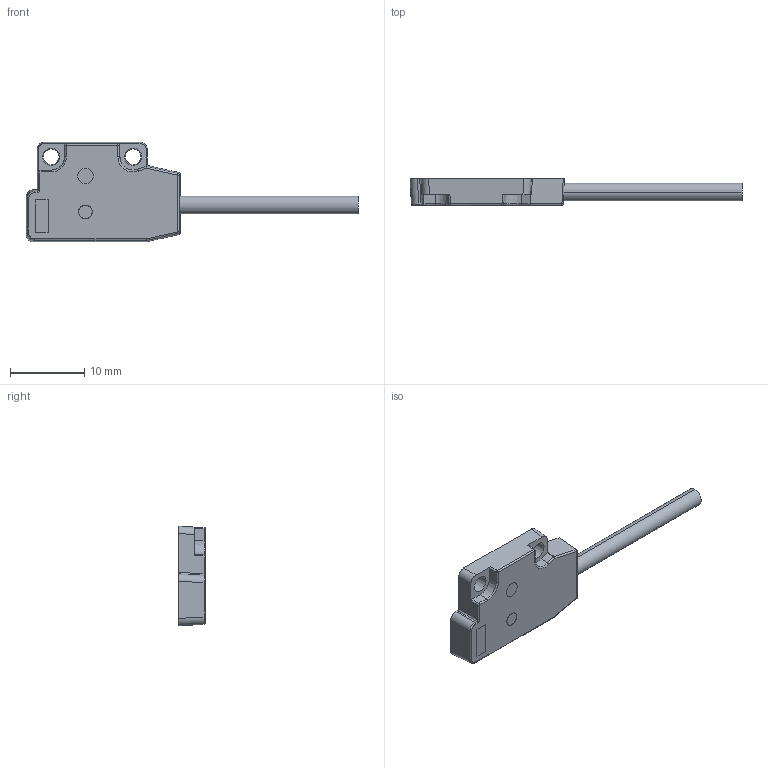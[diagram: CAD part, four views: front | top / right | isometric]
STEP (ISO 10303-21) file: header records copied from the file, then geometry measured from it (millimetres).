
FILE_DESCRIPTION((''),'2;1');
FILE_NAME('00','2024-01-05T17:56:20',('gz'),(''),'CREO PARAMETRIC BY PTC INC, 2020154','CREO PARAMETRIC BY PTC INC, 2020154','');
FILE_SCHEMA(('AUTOMOTIVE_DESIGN { 1 0 10303 214 1 1 1 1 }'));
Length unit declared in the file: millimetre
Products named in the file (1): 00
Bounding box: 44.58 x 3.6 x 13.37 mm (x, y, z)
Surface area: 1694 mm2 (no closed solid volume)
Topology: 0 solids, 4 shells, 380 faces, 1047 edges, 672 vertices
Faces by surface type: plane 199, cylinder 73, cone 48, bspline 37, extrusion 14, sphere 7, torus 2
Entity records: 18325 total; most frequent: CARTESIAN_POINT 6809, ORIENTED_EDGE 2074, DIRECTION 1767, EDGE_CURVE 1037, VERTEX_POINT 672, VECTOR 667, LINE 653, AXIS2_PLACEMENT_3D 550
